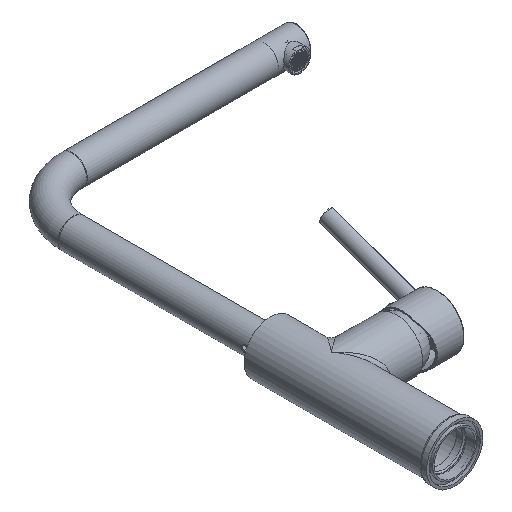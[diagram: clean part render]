
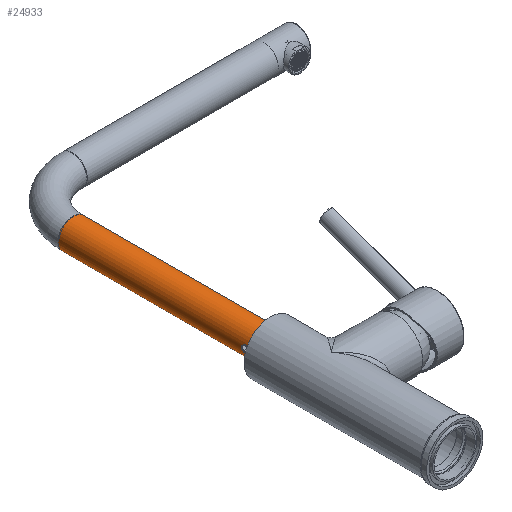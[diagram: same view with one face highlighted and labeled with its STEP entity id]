
A CAD part, isometric view. The second image highlights one B-rep face of the part: STEP entity #24933.
In plain terms, the highlighted cylindrical face has radius 12 mm (diameter 24 mm), a full revolution.
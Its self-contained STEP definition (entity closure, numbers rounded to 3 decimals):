
#128 = CARTESIAN_POINT ( 'NONE',  ( -11.984, 111.831, 0.647 ) ) ;
#256 = CARTESIAN_POINT ( 'NONE',  ( -11.803, 115.505, 2.169 ) ) ;
#397 = CARTESIAN_POINT ( 'NONE',  ( -11.852, 115.903, -1.884 ) ) ;
#538 = CARTESIAN_POINT ( 'NONE',  ( -11.8, 112.99, 2.183 ) ) ;
#708 = ORIENTED_EDGE ( 'NONE', *, *, #17205, .F. ) ;
#1085 = CARTESIAN_POINT ( 'NONE',  ( 0., 266.751, 12. ) ) ;
#2062 = CARTESIAN_POINT ( 'NONE',  ( -11.938, 116.435, 1.259 ) ) ;
#2204 = CARTESIAN_POINT ( 'NONE',  ( -11.949, 112.006, -1.112 ) ) ;
#2343 = CARTESIAN_POINT ( 'NONE',  ( -12., 111.751, 0.163 ) ) ;
#2472 = CARTESIAN_POINT ( 'NONE',  ( -11.997, 111.767, 0.326 ) ) ;
#2610 = CARTESIAN_POINT ( 'NONE',  ( -11.997, 116.735, 0.328 ) ) ;
#2824 = EDGE_LOOP ( 'NONE', ( #3906 ) ) ;
#3031 = CIRCLE ( 'NONE', #24301, 12. ) ;
#3171 = VERTEX_POINT ( 'NONE', #1085 ) ;
#3906 = ORIENTED_EDGE ( 'NONE', *, *, #8017, .T. ) ;
#4281 = CARTESIAN_POINT ( 'NONE',  ( -11.74, 114.58, 2.484 ) ) ;
#4422 = CARTESIAN_POINT ( 'NONE',  ( -11.74, 114.581, -2.483 ) ) ;
#4549 = VERTEX_POINT ( 'NONE', #11358 ) ;
#4569 = CARTESIAN_POINT ( 'NONE',  ( -11.803, 115.507, -2.168 ) ) ;
#4698 = CARTESIAN_POINT ( 'NONE',  ( -11.754, 114.9, 2.42 ) ) ;
#5219 = EDGE_LOOP ( 'NONE', ( #708 ) ) ;
#5997 = FACE_BOUND ( 'NONE', #10764, .T. ) ;
#6085 = CARTESIAN_POINT ( 'NONE',  ( 0., 266.751, 0. ) ) ;
#6515 = CARTESIAN_POINT ( 'NONE',  ( -11.737, 114.085, 2.5 ) ) ;
#6659 = CARTESIAN_POINT ( 'NONE',  ( -11.95, 116.498, -1.109 ) ) ;
#6932 = CARTESIAN_POINT ( 'NONE',  ( -11.764, 113.441, 2.371 ) ) ;
#7131 = B_SPLINE_CURVE_WITH_KNOTS ( 'NONE', 3,
 ( #20796, #10289, #4281, #4698, #10964, #12784, #256, #15141, #23425, #19550, #2062, #14875, #17481, #2610, #19409, #8748, #25908, #17206, #15006, #6659, #23703, #21623, #10555, #397, #15279, #4569, #10836, #25779, #12651, #4422, #21356, #19276, #17347, #21078, #13200, #11109, #19144, #21213, #23835, #19001, #2204, #10702, #23286, #2343, #2472, #128, #25634, #25365, #25497, #8612, #21483, #17070, #538, #6932, #9028, #27438, #6515, #8475 ),
 .UNSPECIFIED., .T., .F.,
 ( 4, 2, 2, 2, 2, 2, 2, 2, 2, 2, 2, 2, 2, 2, 2, 2, 2, 2, 2, 2, 2, 2, 2, 2, 2, 2, 2, 2, 4 ),
 ( 0., 0., 0.001, 0.001, 0.002, 0.003, 0.003, 0.004, 0.004, 0.005, 0.005, 0.006, 0.006, 0.007, 0.007, 0.008, 0.009, 0.009, 0.01, 0.01, 0.011, 0.012, 0.012, 0.013, 0.013, 0.014, 0.015, 0.015, 0.016 ),
 .UNSPECIFIED. ) ;
#7569 = CIRCLE ( 'NONE', #23490, 12. ) ;
#8017 = EDGE_CURVE ( 'NONE', #3171, #3171, #7569, .T. ) ;
#8229 = CARTESIAN_POINT ( 'NONE',  ( 0., 103.751, 0. ) ) ;
#8475 = CARTESIAN_POINT ( 'NONE',  ( -11.737, 114.251, 2.5 ) ) ;
#8612 = CARTESIAN_POINT ( 'NONE',  ( -11.904, 112.262, 1.524 ) ) ;
#8748 = CARTESIAN_POINT ( 'NONE',  ( -12., 116.751, -0.162 ) ) ;
#9028 = CARTESIAN_POINT ( 'NONE',  ( -11.754, 113.599, 2.419 ) ) ;
#10289 = CARTESIAN_POINT ( 'NONE',  ( -11.737, 114.417, 2.5 ) ) ;
#10555 = CARTESIAN_POINT ( 'NONE',  ( -11.886, 116.135, -1.651 ) ) ;
#10702 = CARTESIAN_POINT ( 'NONE',  ( -11.986, 111.817, -0.657 ) ) ;
#10764 = EDGE_LOOP ( 'NONE', ( #22909 ) ) ;
#10834 = DIRECTION ( 'NONE',  ( 0., 0., 1. ) ) ;
#10836 = CARTESIAN_POINT ( 'NONE',  ( -11.788, 115.361, -2.246 ) ) ;
#10964 = CARTESIAN_POINT ( 'NONE',  ( -11.763, 115.059, 2.372 ) ) ;
#11109 = CARTESIAN_POINT ( 'NONE',  ( -11.835, 112.726, -1.988 ) ) ;
#11228 = VERTEX_POINT ( 'NONE', #19663 ) ;
#11358 = CARTESIAN_POINT ( 'NONE',  ( -11.737, 114.251, 2.5 ) ) ;
#12651 = CARTESIAN_POINT ( 'NONE',  ( -11.754, 114.903, -2.419 ) ) ;
#12784 = CARTESIAN_POINT ( 'NONE',  ( -11.788, 115.361, 2.246 ) ) ;
#13200 = CARTESIAN_POINT ( 'NONE',  ( -11.803, 112.998, -2.169 ) ) ;
#14575 = DIRECTION ( 'NONE',  ( 0., -1., 0. ) ) ;
#14875 = CARTESIAN_POINT ( 'NONE',  ( -11.974, 116.622, 0.808 ) ) ;
#15006 = CARTESIAN_POINT ( 'NONE',  ( -11.974, 116.624, -0.805 ) ) ;
#15141 = CARTESIAN_POINT ( 'NONE',  ( -11.835, 115.776, 1.988 ) ) ;
#15279 = CARTESIAN_POINT ( 'NONE',  ( -11.835, 115.777, -1.987 ) ) ;
#16555 = DIRECTION ( 'NONE',  ( 0., 0., 1. ) ) ;
#17070 = CARTESIAN_POINT ( 'NONE',  ( -11.835, 112.712, 1.996 ) ) ;
#17202 = CARTESIAN_POINT ( 'NONE',  ( 0., 103.751, 0. ) ) ;
#17205 = EDGE_CURVE ( 'NONE', #11228, #11228, #3031, .T. ) ;
#17206 = CARTESIAN_POINT ( 'NONE',  ( -11.984, 116.671, -0.649 ) ) ;
#17347 = CARTESIAN_POINT ( 'NONE',  ( -11.751, 113.595, -2.434 ) ) ;
#17481 = CARTESIAN_POINT ( 'NONE',  ( -11.983, 116.671, 0.65 ) ) ;
#18058 = EDGE_CURVE ( 'NONE', #4549, #4549, #7131, .T. ) ;
#18723 = DIRECTION ( 'NONE',  ( 0., 0., 1. ) ) ;
#19001 = CARTESIAN_POINT ( 'NONE',  ( -11.935, 112.083, -1.255 ) ) ;
#19144 = CARTESIAN_POINT ( 'NONE',  ( -11.852, 112.6, -1.884 ) ) ;
#19276 = CARTESIAN_POINT ( 'NONE',  ( -11.737, 113.925, -2.5 ) ) ;
#19409 = CARTESIAN_POINT ( 'NONE',  ( -12., 116.751, 0.165 ) ) ;
#19550 = CARTESIAN_POINT ( 'NONE',  ( -11.903, 116.249, 1.538 ) ) ;
#19663 = CARTESIAN_POINT ( 'NONE',  ( 0., 103.751, 12. ) ) ;
#20796 = CARTESIAN_POINT ( 'NONE',  ( -11.737, 114.251, 2.5 ) ) ;
#20973 = DIRECTION ( 'NONE',  ( 0., 1., 0. ) ) ;
#21078 = CARTESIAN_POINT ( 'NONE',  ( -11.788, 113.144, -2.247 ) ) ;
#21106 = FACE_OUTER_BOUND ( 'NONE', #5219, .T. ) ;
#21213 = CARTESIAN_POINT ( 'NONE',  ( -11.886, 112.37, -1.654 ) ) ;
#21356 = CARTESIAN_POINT ( 'NONE',  ( -11.737, 114.416, -2.5 ) ) ;
#21483 = CARTESIAN_POINT ( 'NONE',  ( -11.886, 112.367, 1.652 ) ) ;
#21623 = CARTESIAN_POINT ( 'NONE',  ( -11.904, 116.239, -1.525 ) ) ;
#22767 = FACE_OUTER_BOUND ( 'NONE', #2824, .T. ) ;
#22909 = ORIENTED_EDGE ( 'NONE', *, *, #18058, .F. ) ;
#23283 = DIRECTION ( 'NONE',  ( 0., -1., 0. ) ) ;
#23286 = CARTESIAN_POINT ( 'NONE',  ( -12., 111.751, -0.332 ) ) ;
#23425 = CARTESIAN_POINT ( 'NONE',  ( -11.852, 115.904, 1.883 ) ) ;
#23490 = AXIS2_PLACEMENT_3D ( 'NONE', #6085, #14575, #18723 ) ;
#23703 = CARTESIAN_POINT ( 'NONE',  ( -11.935, 116.42, -1.254 ) ) ;
#23835 = CARTESIAN_POINT ( 'NONE',  ( -11.903, 112.264, -1.526 ) ) ;
#24301 = AXIS2_PLACEMENT_3D ( 'NONE', #17202, #23283, #10834 ) ;
#24933 = ADVANCED_FACE ( 'NONE', ( #22767, #21106, #5997 ), #27191, .T. ) ;
#25365 = CARTESIAN_POINT ( 'NONE',  ( -11.95, 112.004, 1.108 ) ) ;
#25497 = CARTESIAN_POINT ( 'NONE',  ( -11.935, 112.081, 1.252 ) ) ;
#25615 = AXIS2_PLACEMENT_3D ( 'NONE', #8229, #20973, #16555 ) ;
#25634 = CARTESIAN_POINT ( 'NONE',  ( -11.974, 111.879, 0.806 ) ) ;
#25779 = CARTESIAN_POINT ( 'NONE',  ( -11.763, 115.059, -2.372 ) ) ;
#25908 = CARTESIAN_POINT ( 'NONE',  ( -11.997, 116.735, -0.328 ) ) ;
#27191 = CYLINDRICAL_SURFACE ( 'NONE', #25615, 12. ) ;
#27438 = CARTESIAN_POINT ( 'NONE',  ( -11.74, 113.922, 2.484 ) ) ;
